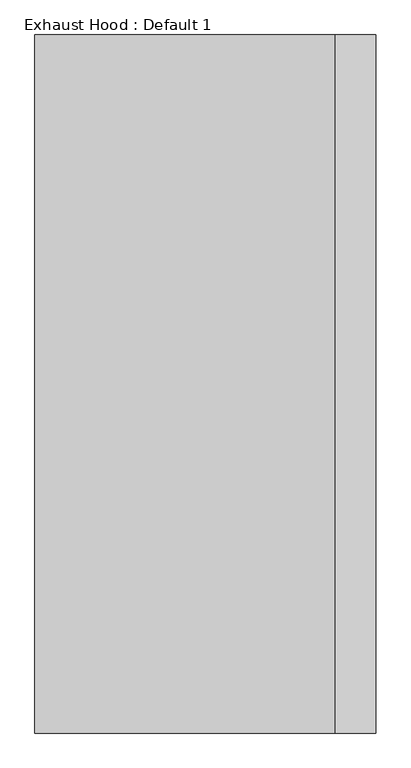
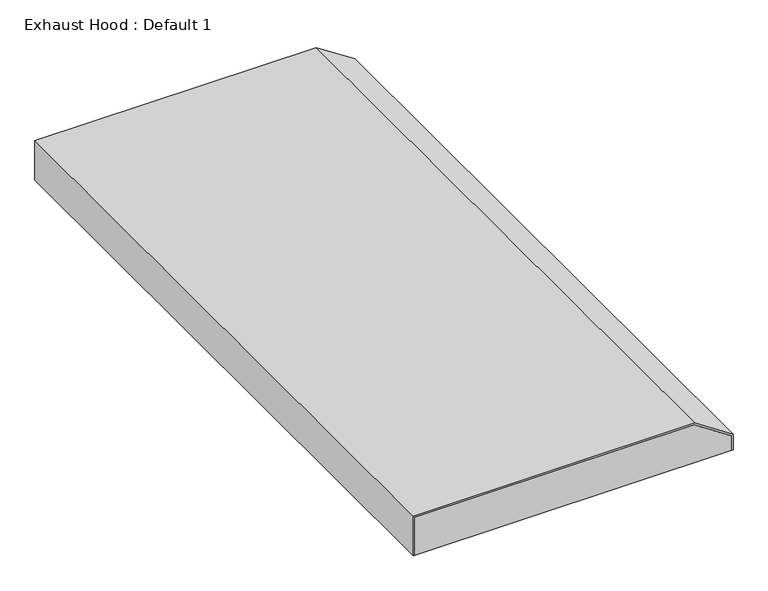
"""IFC4 building model written with IfcOpenShell, lengths in millimetres: proxy geometry, Exhaust Hood : Default 1."""

from ifc_helpers import new_model, si_unit, frame, origin, place, context, project, spatial, polyline, outline, extrude, source, transform, mapped, element, save


def exhaust_hood_default_1_90655286(model_context):
    return source(origin(), model_context, "Body", "SweptSolid", [
        extrude(outline(polyline([(2279.65, 1026.5336282), (2279.65, 6.35), (2133.6, 6.35), (2133.6, 1162.05), (2189.8842631, 1162.05), (2279.65, 1026.5336282)])), frame((0.0, 2387.6, 0.0), z_axis=(0.0, 1.0, 0.0), x_axis=(0.0, 0.0, 1.0)), (0.0, 0.0, 1.0), 6.35),
        extrude(outline(polyline([(2279.65, 1026.5336282), (2279.65, 6.35), (2133.6, 6.35), (2133.6, 1162.05), (2189.8842631, 1162.05), (2279.65, 1026.5336282)])), frame((0.0, 0.0, 0.0), z_axis=(0.0, 1.0, 0.0), x_axis=(0.0, 0.0, 1.0)), (0.0, 0.0, 1.0), 6.35),
        extrude(outline(polyline([(2286.0, 1028.4459942), (2286.0, 0.0), (2133.6, 0.0), (2133.6, 6.35), (2279.65, 6.35), (2279.65, 1026.5336282), (2189.8842631, 1162.05), (2133.6, 1162.05), (2133.6, 1168.4), (2193.2947845, 1168.4), (2286.0, 1028.4459942)])), frame((0.0, 0.0, 0.0), z_axis=(0.0, 1.0, 0.0), x_axis=(0.0, 0.0, 1.0)), (0.0, 0.0, 1.0), 2393.95),
    ])


if __name__ == "__main__":
    model = new_model("IFC4")
    model_context = context("Model", 3, world=origin())
    ifc_project = project(units=[si_unit("LENGTHUNIT", "METRE", prefix="MILLI")], contexts=[model_context])
    site = spatial("IfcSite", under=ifc_project)
    building = spatial("IfcBuilding", under=site)
    placement = place(None, origin())
    exhaust_hood_default_1_shape = exhaust_hood_default_1_90655286(model_context)
    element("IfcBuildingElementProxy", 1, Name="Exhaust Hood : Default 1", ObjectType="Exhaust Hood : Default 1", at=placement, inside=building, context=model_context, shape_type="MappedRepresentation", body=[
        mapped(exhaust_hood_default_1_shape, transform((0.0, 0.0, 0.0), x_axis=(1.0, 0.0, 0.0), y_axis=(0.0, 1.0, 0.0), z_axis=(0.0, 0.0, 1.0))),
    ])
    save(model, "model.ifc")
